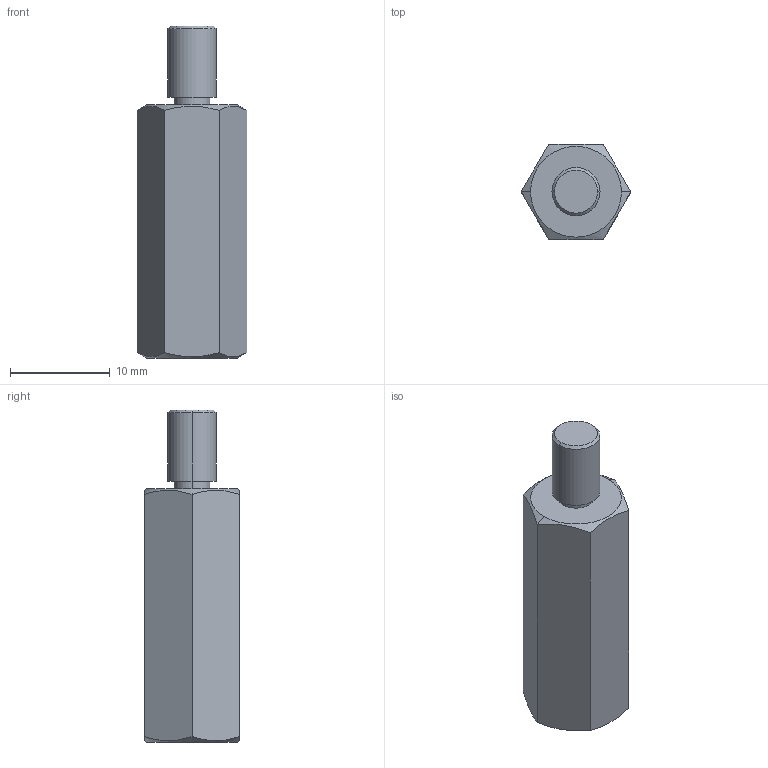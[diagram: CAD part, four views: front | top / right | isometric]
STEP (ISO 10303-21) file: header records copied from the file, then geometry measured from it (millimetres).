
FILE_DESCRIPTION((''),'1');
FILE_NAME('2','2001-04-17T',('jlue'),(''),'PRO/ENGINEER BY PARAMETRIC TECHNOLOGY CORPORATION, 9846','PRO/ENGINEER BY PARAMETRIC TECHNOLOGY CORPORATION, 9846','');
FILE_SCHEMA(('CONFIG_CONTROL_DESIGN'));
Length unit declared in the file: inch
Products named in the file (1): 2
Bounding box: 11 x 9.53 x 33.32 mm (x, y, z)
Surface area: 1231.1 mm2 (no closed solid volume)
Topology: 0 solids, 0 shells, 25 faces, 119 edges, 122 vertices
Faces by surface type: plane 11, cone 8, cylinder 6
Entity records: 949 total; most frequent: CARTESIAN_POINT 419, COMPOSITE_CURVE_SEGMENT 117, DIRECTION 112, AXIS2_PLACEMENT_3D 45, TRIMMED_CURVE 42, CURVE_BOUNDED_SURFACE 25, B_SPLINE_CURVE_WITH_KNOTS 25, OUTER_BOUNDARY_CURVE 25
